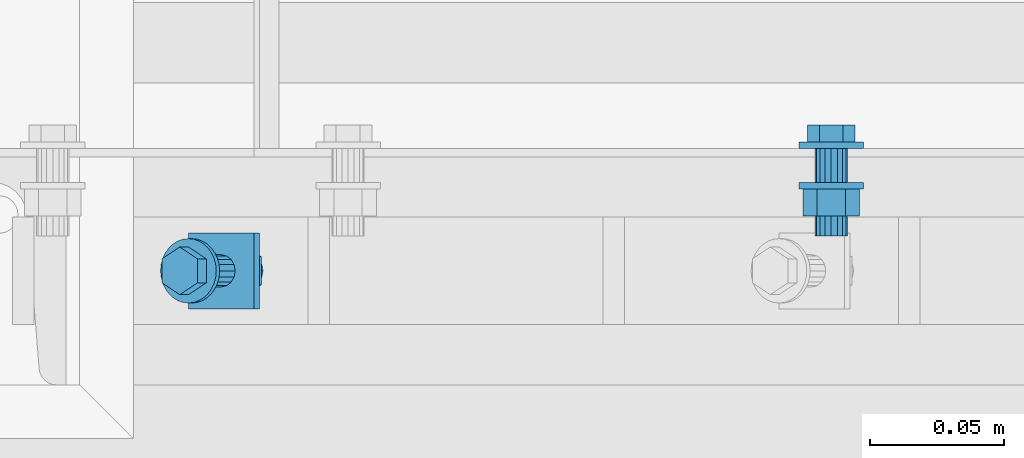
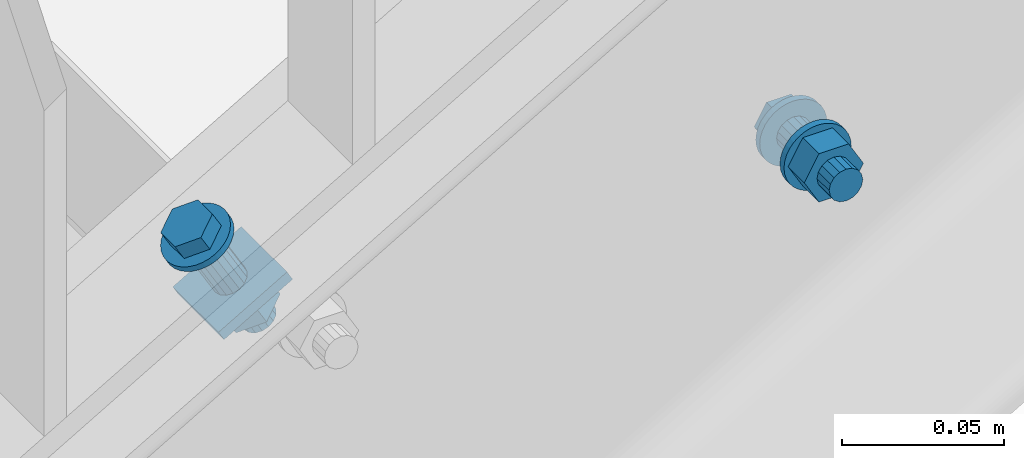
# One storey, part 48 of 145: 2 mechanical fasteners.
"""IFC2X3 building model written with IfcOpenShell, lengths in millimetres."""

from ifc_helpers import new_model, entity, si_unit, converted_unit, origin_with_axes, place, context, project, spatial, faceted_brep, element, save


model = new_model("IFC2X3")

# Units and contexts
model_context = context("Model", 3, precision=1e-09, world=origin_with_axes())
ifc_project = project(units=[si_unit("LENGTHUNIT", "METRE", prefix="MILLI"), si_unit("AREAUNIT", "SQUARE_METRE"), si_unit("VOLUMEUNIT", "CUBIC_METRE"), converted_unit("PLANEANGLEUNIT", "DEGREE", entity("IfcPlaneAngleMeasure", 0.01745329), si_unit("PLANEANGLEUNIT", "RADIAN"), dimensions=[0, 0, 0, 0, 0, 0, 0])], contexts=[model_context])

# Site, building, storey
site_placement = place(None, origin_with_axes())
site = spatial("IfcSite", under=ifc_project, at=site_placement, Name="BZ1 Grund- und Mittelschule 85716 Unterschlei?heim", CompositionType="ELEMENT")
building_placement = place(site_placement, origin_with_axes())
building = spatial("IfcBuilding", under=site, at=building_placement, Name="Struktur 1", CompositionType="ELEMENT")
storey_placement = place(building_placement, origin_with_axes())
storey = spatial("IfcBuildingStorey", under=building, at=storey_placement, Name="Default Storey", CompositionType="ELEMENT", Elevation=0.0)

# Mechanical fasteners
mechanical_fastener_1_placement = place(None, origin_with_axes())
element("IfcMechanicalFastener", 1, at=mechanical_fastener_1_placement, inside=storey, ObjectType="-", NominalDiameter=12.0, NominalLength=35.0, context=model_context, shape_type="Brep", body=[
    faceted_brep([(17169.545399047, -3114.502, -189.727271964), (17169.545399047, -3117.002, -189.727271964), (17167.204315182, -3117.002, -189.496695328), (17167.204315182, -3114.502, -189.496695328), (17164.953197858, -3117.002, -188.813826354), (17164.953197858, -3114.502, -188.813826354), (17162.87855625, -3117.002, -187.704907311), (17162.87855625, -3114.502, -187.704907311), (17161.060117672, -3117.002, -186.212553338), (17161.060117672, -3114.502, -186.212553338), (17159.567763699, -3117.002, -184.39411476), (17159.567763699, -3114.502, -184.39411476), (17158.458844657, -3117.002, -182.319473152), (17158.458844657, -3114.502, -182.319473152), (17157.775975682, -3117.002, -180.068355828), (17157.775975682, -3114.502, -180.068355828), (17157.545399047, -3117.002, -177.727271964), (17157.545399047, -3114.502, -177.727271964), (17157.775975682, -3117.002, -175.386188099), (17157.775975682, -3114.502, -175.386188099), (17158.458844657, -3117.002, -173.135070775), (17158.458844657, -3114.502, -173.135070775), (17159.567763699, -3117.002, -171.060429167), (17159.567763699, -3114.502, -171.060429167), (17161.060117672, -3117.002, -169.241990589), (17161.060117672, -3114.502, -169.241990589), (17162.87855625, -3117.002, -167.749636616), (17162.87855625, -3114.502, -167.749636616), (17164.953197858, -3117.002, -166.640717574), (17164.953197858, -3114.502, -166.640717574), (17167.204315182, -3117.002, -165.957848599), (17167.204315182, -3114.502, -165.957848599), (17169.545399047, -3117.002, -165.727271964), (17169.545399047, -3114.502, -165.727271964), (17171.886482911, -3117.002, -165.957848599), (17171.886482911, -3114.502, -165.957848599), (17174.137600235, -3117.002, -166.640717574), (17174.137600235, -3114.502, -166.640717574), (17176.212241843, -3117.002, -167.749636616), (17176.212241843, -3114.502, -167.749636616), (17178.030680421, -3117.002, -169.241990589), (17178.030680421, -3114.502, -169.241990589), (17179.523034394, -3117.002, -171.060429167), (17179.523034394, -3114.502, -171.060429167), (17180.631953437, -3117.002, -173.135070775), (17180.631953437, -3114.502, -173.135070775), (17181.314822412, -3117.002, -175.386188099), (17181.314822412, -3114.502, -175.386188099), (17181.545399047, -3117.002, -177.727271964), (17181.545399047, -3114.502, -177.727271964), (17181.314822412, -3117.002, -180.068355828), (17181.314822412, -3114.502, -180.068355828), (17180.631953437, -3117.002, -182.319473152), (17180.631953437, -3114.502, -182.319473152), (17179.523034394, -3117.002, -184.39411476), (17179.523034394, -3114.502, -184.39411476), (17178.030680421, -3117.002, -186.212553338), (17178.030680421, -3114.502, -186.212553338), (17176.212241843, -3117.002, -187.704907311), (17176.212241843, -3114.502, -187.704907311), (17174.137600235, -3117.002, -188.813826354), (17174.137600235, -3114.502, -188.813826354), (17171.886482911, -3117.002, -189.496695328), (17171.886482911, -3114.502, -189.496695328)], [[[0, 1, 2, 3]], [[3, 2, 4, 5]], [[5, 4, 6, 7]], [[7, 6, 8, 9]], [[9, 8, 10, 11]], [[11, 10, 12, 13]], [[13, 12, 14, 15]], [[15, 14, 16, 17]], [[17, 16, 18, 19]], [[19, 18, 20, 21]], [[21, 20, 22, 23]], [[23, 22, 24, 25]], [[25, 24, 26, 27]], [[27, 26, 28, 29]], [[29, 28, 30, 31]], [[31, 30, 32, 33]], [[33, 32, 34, 35]], [[35, 34, 36, 37]], [[37, 36, 38, 39]], [[39, 38, 40, 41]], [[41, 40, 42, 43]], [[43, 42, 44, 45]], [[45, 44, 46, 47]], [[47, 46, 48, 49]], [[49, 48, 50, 51]], [[51, 50, 52, 53]], [[53, 52, 54, 55]], [[55, 54, 56, 57]], [[57, 56, 58, 59]], [[59, 58, 60, 61]], [[61, 60, 62, 63]], [[63, 62, 1, 0]], [[0, 3, 5, 7, 9, 11, 13, 15, 17, 19, 21, 23, 25, 27, 29, 31, 33, 35, 37, 39, 41, 43, 45, 47, 49, 51, 53, 55, 57, 59, 61, 63]], [[1, 62, 60, 58, 56, 54, 52, 50, 48, 46, 44, 42, 40, 38, 36, 34, 32, 30, 28, 26, 24, 22, 20, 18, 16, 14, 12, 10, 8, 6, 4, 2]]]),
    faceted_brep([(17165.102899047, -3114.502, -170.032636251), (17165.102899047, -3108.102, -170.032636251), (17160.660399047, -3108.102, -177.727271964), (17160.660399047, -3114.502, -177.727271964), (17165.102899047, -3108.102, -185.421907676), (17165.102899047, -3114.502, -185.421907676), (17173.987899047, -3108.102, -185.421907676), (17173.987899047, -3114.502, -185.421907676), (17178.430399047, -3108.102, -177.727271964), (17178.430399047, -3114.502, -177.727271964), (17173.987899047, -3108.102, -170.032636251), (17173.987899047, -3114.502, -170.032636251)], [[[0, 1, 2, 3]], [[3, 2, 4, 5]], [[5, 4, 6, 7]], [[7, 6, 8, 9]], [[9, 8, 10, 11]], [[11, 10, 1, 0]], [[4, 2, 1, 10, 8, 6]], [[0, 3, 5, 7, 9, 11]]]),
    faceted_brep([(17169.545399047, -3117.002, -183.727271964), (17169.545399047, -3129.502, -183.727271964), (17167.249298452, -3129.502, -183.270549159), (17167.249298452, -3117.002, -183.270549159), (17165.30275836, -3129.502, -181.969912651), (17165.30275836, -3117.002, -181.969912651), (17164.002121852, -3129.502, -180.023372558), (17164.002121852, -3117.002, -180.023372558), (17163.545399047, -3129.502, -177.727271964), (17163.545399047, -3117.002, -177.727271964), (17164.002121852, -3129.502, -175.431171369), (17164.002121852, -3117.002, -175.431171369), (17165.30275836, -3129.502, -173.484631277), (17165.30275836, -3117.002, -173.484631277), (17167.249298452, -3129.502, -172.183994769), (17167.249298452, -3117.002, -172.183994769), (17169.545399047, -3129.502, -171.727271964), (17169.545399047, -3117.002, -171.727271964), (17171.841499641, -3129.502, -172.183994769), (17171.841499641, -3117.002, -172.183994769), (17173.788039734, -3129.502, -173.484631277), (17173.788039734, -3117.002, -173.484631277), (17175.088676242, -3129.502, -175.431171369), (17175.088676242, -3117.002, -175.431171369), (17175.545399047, -3129.502, -177.727271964), (17175.545399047, -3117.002, -177.727271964), (17175.088676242, -3129.502, -180.023372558), (17175.088676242, -3117.002, -180.023372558), (17173.788039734, -3129.502, -181.969912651), (17173.788039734, -3117.002, -181.969912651), (17171.841499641, -3129.502, -183.270549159), (17171.841499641, -3117.002, -183.270549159)], [[[0, 1, 2, 3]], [[3, 2, 4, 5]], [[5, 4, 6, 7]], [[7, 6, 8, 9]], [[9, 8, 10, 11]], [[11, 10, 12, 13]], [[13, 12, 14, 15]], [[15, 14, 16, 17]], [[17, 16, 18, 19]], [[19, 18, 20, 21]], [[21, 20, 22, 23]], [[23, 22, 24, 25]], [[25, 24, 26, 27]], [[27, 26, 28, 29]], [[29, 28, 30, 31]], [[31, 30, 1, 0]], [[0, 3, 5, 7, 9, 11, 13, 15, 17, 19, 21, 23, 25, 27, 29, 31]], [[1, 30, 28, 26, 24, 22, 20, 18, 16, 14, 12, 10, 8, 6, 4, 2]]]),
    faceted_brep([(17169.545399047, -3129.502, -189.727271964), (17169.545399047, -3132.002, -189.727271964), (17167.204315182, -3132.002, -189.496695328), (17167.204315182, -3129.502, -189.496695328), (17164.953197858, -3132.002, -188.813826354), (17164.953197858, -3129.502, -188.813826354), (17162.87855625, -3132.002, -187.704907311), (17162.87855625, -3129.502, -187.704907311), (17161.060117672, -3132.002, -186.212553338), (17161.060117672, -3129.502, -186.212553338), (17159.567763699, -3132.002, -184.39411476), (17159.567763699, -3129.502, -184.39411476), (17158.458844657, -3132.002, -182.319473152), (17158.458844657, -3129.502, -182.319473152), (17157.775975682, -3132.002, -180.068355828), (17157.775975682, -3129.502, -180.068355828), (17157.545399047, -3132.002, -177.727271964), (17157.545399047, -3129.502, -177.727271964), (17157.775975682, -3132.002, -175.386188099), (17157.775975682, -3129.502, -175.386188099), (17158.458844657, -3132.002, -173.135070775), (17158.458844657, -3129.502, -173.135070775), (17159.567763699, -3132.002, -171.060429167), (17159.567763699, -3129.502, -171.060429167), (17161.060117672, -3132.002, -169.241990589), (17161.060117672, -3129.502, -169.241990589), (17162.87855625, -3132.002, -167.749636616), (17162.87855625, -3129.502, -167.749636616), (17164.953197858, -3132.002, -166.640717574), (17164.953197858, -3129.502, -166.640717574), (17167.204315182, -3132.002, -165.957848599), (17167.204315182, -3129.502, -165.957848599), (17169.545399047, -3132.002, -165.727271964), (17169.545399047, -3129.502, -165.727271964), (17171.886482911, -3132.002, -165.957848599), (17171.886482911, -3129.502, -165.957848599), (17174.137600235, -3132.002, -166.640717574), (17174.137600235, -3129.502, -166.640717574), (17176.212241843, -3132.002, -167.749636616), (17176.212241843, -3129.502, -167.749636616), (17178.030680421, -3132.002, -169.241990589), (17178.030680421, -3129.502, -169.241990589), (17179.523034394, -3132.002, -171.060429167), (17179.523034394, -3129.502, -171.060429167), (17180.631953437, -3132.002, -173.135070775), (17180.631953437, -3129.502, -173.135070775), (17181.314822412, -3132.002, -175.386188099), (17181.314822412, -3129.502, -175.386188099), (17181.545399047, -3132.002, -177.727271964), (17181.545399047, -3129.502, -177.727271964), (17181.314822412, -3132.002, -180.068355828), (17181.314822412, -3129.502, -180.068355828), (17180.631953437, -3132.002, -182.319473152), (17180.631953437, -3129.502, -182.319473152), (17179.523034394, -3132.002, -184.39411476), (17179.523034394, -3129.502, -184.39411476), (17178.030680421, -3132.002, -186.212553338), (17178.030680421, -3129.502, -186.212553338), (17176.212241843, -3132.002, -187.704907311), (17176.212241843, -3129.502, -187.704907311), (17174.137600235, -3132.002, -188.813826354), (17174.137600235, -3129.502, -188.813826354), (17171.886482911, -3132.002, -189.496695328), (17171.886482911, -3129.502, -189.496695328)], [[[0, 1, 2, 3]], [[3, 2, 4, 5]], [[5, 4, 6, 7]], [[7, 6, 8, 9]], [[9, 8, 10, 11]], [[11, 10, 12, 13]], [[13, 12, 14, 15]], [[15, 14, 16, 17]], [[17, 16, 18, 19]], [[19, 18, 20, 21]], [[21, 20, 22, 23]], [[23, 22, 24, 25]], [[25, 24, 26, 27]], [[27, 26, 28, 29]], [[29, 28, 30, 31]], [[31, 30, 32, 33]], [[33, 32, 34, 35]], [[35, 34, 36, 37]], [[37, 36, 38, 39]], [[39, 38, 40, 41]], [[41, 40, 42, 43]], [[43, 42, 44, 45]], [[45, 44, 46, 47]], [[47, 46, 48, 49]], [[49, 48, 50, 51]], [[51, 50, 52, 53]], [[53, 52, 54, 55]], [[55, 54, 56, 57]], [[57, 56, 58, 59]], [[59, 58, 60, 61]], [[61, 60, 62, 63]], [[63, 62, 1, 0]], [[0, 3, 5, 7, 9, 11, 13, 15, 17, 19, 21, 23, 25, 27, 29, 31, 33, 35, 37, 39, 41, 43, 45, 47, 49, 51, 53, 55, 57, 59, 61, 63]], [[1, 62, 60, 58, 56, 54, 52, 50, 48, 46, 44, 42, 40, 38, 36, 34, 32, 30, 28, 26, 24, 22, 20, 18, 16, 14, 12, 10, 8, 6, 4, 2]]]),
    faceted_brep([(17164.270399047, -3142.002, -168.590703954), (17164.270399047, -3132.002, -168.590703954), (17158.995399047, -3132.002, -177.727271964), (17158.995399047, -3142.002, -177.727271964), (17164.270399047, -3132.002, -186.863839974), (17164.270399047, -3142.002, -186.863839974), (17174.820399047, -3132.002, -186.863839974), (17174.820399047, -3142.002, -186.863839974), (17180.095399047, -3132.002, -177.727271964), (17180.095399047, -3142.002, -177.727271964), (17174.820399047, -3132.002, -168.590703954), (17174.820399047, -3142.002, -168.590703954)], [[[0, 1, 2, 3]], [[3, 2, 4, 5]], [[5, 4, 6, 7]], [[7, 6, 8, 9]], [[9, 8, 10, 11]], [[11, 10, 1, 0]], [[4, 2, 1, 10, 8, 6]], [[0, 3, 5, 7, 9, 11]]]),
    faceted_brep([(17169.545399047, -3142.002, -183.727271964), (17169.545399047, -3149.502, -183.727271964), (17167.249298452, -3149.502, -183.270549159), (17167.249298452, -3142.002, -183.270549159), (17165.30275836, -3149.502, -181.969912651), (17165.30275836, -3142.002, -181.969912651), (17164.002121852, -3149.502, -180.023372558), (17164.002121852, -3142.002, -180.023372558), (17163.545399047, -3149.502, -177.727271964), (17163.545399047, -3142.002, -177.727271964), (17164.002121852, -3149.502, -175.431171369), (17164.002121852, -3142.002, -175.431171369), (17165.30275836, -3149.502, -173.484631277), (17165.30275836, -3142.002, -173.484631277), (17167.249298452, -3149.502, -172.183994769), (17167.249298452, -3142.002, -172.183994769), (17169.545399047, -3149.502, -171.727271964), (17169.545399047, -3142.002, -171.727271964), (17171.841499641, -3149.502, -172.183994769), (17171.841499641, -3142.002, -172.183994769), (17173.788039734, -3149.502, -173.484631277), (17173.788039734, -3142.002, -173.484631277), (17175.088676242, -3149.502, -175.431171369), (17175.088676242, -3142.002, -175.431171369), (17175.545399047, -3149.502, -177.727271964), (17175.545399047, -3142.002, -177.727271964), (17175.088676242, -3149.502, -180.023372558), (17175.088676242, -3142.002, -180.023372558), (17173.788039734, -3149.502, -181.969912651), (17173.788039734, -3142.002, -181.969912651), (17171.841499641, -3149.502, -183.270549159), (17171.841499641, -3142.002, -183.270549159)], [[[0, 1, 2, 3]], [[3, 2, 4, 5]], [[5, 4, 6, 7]], [[7, 6, 8, 9]], [[9, 8, 10, 11]], [[11, 10, 12, 13]], [[13, 12, 14, 15]], [[15, 14, 16, 17]], [[17, 16, 18, 19]], [[19, 18, 20, 21]], [[21, 20, 22, 23]], [[23, 22, 24, 25]], [[25, 24, 26, 27]], [[27, 26, 28, 29]], [[29, 28, 30, 31]], [[31, 30, 1, 0]], [[0, 3, 5, 7, 9, 11, 13, 15, 17, 19, 21, 23, 25, 27, 29, 31]], [[1, 30, 28, 26, 24, 22, 20, 18, 16, 14, 12, 10, 8, 6, 4, 2]]]),
])
mechanical_fastener_2_placement = place(None, origin_with_axes())
element("IfcMechanicalFastener", 2, at=mechanical_fastener_2_placement, inside=storey, ObjectType="-", NominalDiameter=12.0, NominalLength=45.0, context=model_context, shape_type="Brep", body=[
    faceted_brep([(16919.692769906, -3162.502, -110.848014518), (16920.949497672, -3162.502, -113.009179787), (16921.148823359, -3164.843083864, -112.893270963), (16919.892095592, -3164.843083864, -110.732105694), (16921.739140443, -3167.094201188, -112.549998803), (16920.482412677, -3167.094201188, -110.388833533), (16922.697763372, -3169.168842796, -111.992555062), (16921.441035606, -3169.168842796, -109.831389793), (16923.987852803, -3170.987281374, -111.242361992), (16922.731125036, -3170.987281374, -109.081196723), (16925.559831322, -3172.479635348, -110.328249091), (16924.303103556, -3172.479635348, -108.167083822), (16927.353288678, -3173.58855439, -109.285345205), (16926.096560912, -3173.58855439, -107.124179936), (16929.299303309, -3174.271423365, -108.153728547), (16928.042575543, -3174.271423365, -105.992563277), (16931.323090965, -3174.502, -106.976886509), (16930.066363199, -3174.502, -104.815721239), (16933.346878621, -3174.271423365, -105.80004447), (16932.090150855, -3174.271423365, -103.638879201), (16935.292893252, -3173.58855439, -104.668427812), (16934.036165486, -3173.58855439, -102.507262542), (16937.086350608, -3172.479635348, -103.625523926), (16935.829622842, -3172.479635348, -101.464358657), (16938.658329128, -3170.987281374, -102.711411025), (16937.401601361, -3170.987281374, -100.550245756), (16939.948418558, -3169.168842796, -101.961217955), (16938.691690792, -3169.168842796, -99.800052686), (16940.907041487, -3167.094201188, -101.403774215), (16939.650313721, -3167.094201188, -99.242608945), (16941.497358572, -3164.843083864, -101.060502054), (16940.240630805, -3164.843083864, -98.899336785), (16941.696684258, -3162.502, -100.94459323), (16940.439956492, -3162.502, -98.783427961), (16941.497358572, -3160.160916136, -101.060502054), (16940.240630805, -3160.160916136, -98.899336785), (16940.907041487, -3157.909798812, -101.403774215), (16939.650313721, -3157.909798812, -99.242608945), (16939.948418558, -3155.835157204, -101.961217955), (16938.691690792, -3155.835157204, -99.800052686), (16938.658329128, -3154.016718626, -102.711411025), (16937.401601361, -3154.016718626, -100.550245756), (16937.086350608, -3152.524364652, -103.625523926), (16935.829622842, -3152.524364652, -101.464358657), (16935.292893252, -3151.41544561, -104.668427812), (16934.036165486, -3151.41544561, -102.507262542), (16933.346878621, -3150.732576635, -105.80004447), (16932.090150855, -3150.732576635, -103.638879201), (16931.323090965, -3150.502, -106.976886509), (16930.066363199, -3150.502, -104.815721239), (16929.299303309, -3150.732576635, -108.153728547), (16928.042575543, -3150.732576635, -105.992563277), (16927.353288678, -3151.41544561, -109.285345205), (16926.096560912, -3151.41544561, -107.124179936), (16925.559831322, -3152.524364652, -110.328249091), (16924.303103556, -3152.524364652, -108.167083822), (16923.987852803, -3154.016718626, -111.242361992), (16922.731125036, -3154.016718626, -109.081196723), (16922.697763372, -3155.835157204, -111.992555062), (16921.441035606, -3155.835157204, -109.831389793), (16921.739140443, -3157.909798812, -112.549998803), (16920.482412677, -3157.909798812, -110.388833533), (16921.148823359, -3160.160916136, -112.893270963), (16919.892095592, -3160.160916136, -110.732105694)], [[[0, 1, 2, 3]], [[3, 2, 4, 5]], [[5, 4, 6, 7]], [[7, 6, 8, 9]], [[9, 8, 10, 11]], [[11, 10, 12, 13]], [[13, 12, 14, 15]], [[15, 14, 16, 17]], [[17, 16, 18, 19]], [[19, 18, 20, 21]], [[21, 20, 22, 23]], [[23, 22, 24, 25]], [[25, 24, 26, 27]], [[27, 26, 28, 29]], [[29, 28, 30, 31]], [[31, 30, 32, 33]], [[33, 32, 34, 35]], [[35, 34, 36, 37]], [[37, 36, 38, 39]], [[39, 38, 40, 41]], [[41, 40, 42, 43]], [[43, 42, 44, 45]], [[45, 44, 46, 47]], [[47, 46, 48, 49]], [[49, 48, 50, 51]], [[51, 50, 52, 53]], [[53, 52, 54, 55]], [[55, 54, 56, 57]], [[57, 56, 58, 59]], [[59, 58, 60, 61]], [[61, 60, 62, 63]], [[63, 62, 1, 0]], [[0, 3, 5, 7, 9, 11, 13, 15, 17, 19, 21, 23, 25, 27, 29, 31, 33, 35, 37, 39, 41, 43, 45, 47, 49, 51, 53, 55, 57, 59, 61, 63]], [[1, 62, 60, 58, 56, 54, 52, 50, 48, 46, 44, 42, 40, 38, 36, 34, 32, 30, 28, 26, 24, 22, 20, 18, 16, 14, 12, 10, 8, 6, 4, 2]]]),
    faceted_brep([(16936.718114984, -3166.9445, -100.947696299), (16933.500891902, -3166.9445, -95.415113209), (16926.849140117, -3171.387, -99.28313815), (16930.066363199, -3171.387, -104.815721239), (16920.197388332, -3166.9445, -103.151163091), (16923.414611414, -3166.9445, -108.68374618), (16920.197388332, -3158.0595, -103.151163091), (16923.414611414, -3158.0595, -108.68374618), (16926.849140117, -3153.617, -99.28313815), (16930.066363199, -3153.617, -104.815721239), (16933.500891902, -3158.0595, -95.415113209), (16936.718114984, -3158.0595, -100.947696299)], [[[0, 1, 2, 3]], [[3, 2, 4, 5]], [[5, 4, 6, 7]], [[7, 6, 8, 9]], [[9, 8, 10, 11]], [[11, 10, 1, 0]], [[4, 2, 1, 10, 8, 6]], [[0, 3, 5, 7, 9, 11]]]),
    faceted_brep([(16926.136294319, -3162.502, -109.993033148), (16937.117086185, -3162.502, -128.876443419), (16937.511907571, -3164.798100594, -128.646852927), (16926.531115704, -3164.798100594, -109.763442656), (16938.63626375, -3166.744640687, -127.993034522), (16927.655471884, -3166.744640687, -109.10962425), (16940.318981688, -3168.045277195, -127.014526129), (16929.338189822, -3168.045277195, -108.131115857), (16942.303882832, -3168.502, -125.86029678), (16931.323090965, -3168.502, -106.976886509), (16944.288783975, -3168.045277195, -124.706067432), (16933.307992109, -3168.045277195, -105.82265716), (16945.971501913, -3166.744640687, -123.727559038), (16934.990710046, -3166.744640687, -104.844148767), (16947.095858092, -3164.798100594, -123.073740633), (16936.115066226, -3164.798100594, -104.190330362), (16947.490679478, -3162.502, -122.844150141), (16936.509887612, -3162.502, -103.960739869), (16947.095858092, -3160.205899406, -123.073740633), (16936.115066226, -3160.205899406, -104.190330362), (16945.971501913, -3158.259359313, -123.727559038), (16934.990710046, -3158.259359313, -104.844148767), (16944.288783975, -3156.958722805, -124.706067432), (16933.307992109, -3156.958722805, -105.82265716), (16942.303882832, -3156.502, -125.86029678), (16931.323090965, -3156.502, -106.976886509), (16940.318981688, -3156.958722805, -127.014526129), (16929.338189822, -3156.958722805, -108.131115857), (16938.63626375, -3158.259359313, -127.993034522), (16927.655471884, -3158.259359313, -109.10962425), (16937.511907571, -3160.205899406, -128.646852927), (16926.531115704, -3160.205899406, -109.763442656)], [[[0, 1, 2, 3]], [[3, 2, 4, 5]], [[5, 4, 6, 7]], [[7, 6, 8, 9]], [[9, 8, 10, 11]], [[11, 10, 12, 13]], [[13, 12, 14, 15]], [[15, 14, 16, 17]], [[17, 16, 18, 19]], [[19, 18, 20, 21]], [[21, 20, 22, 23]], [[23, 22, 24, 25]], [[25, 24, 26, 27]], [[27, 26, 28, 29]], [[29, 28, 30, 31]], [[31, 30, 1, 0]], [[0, 3, 5, 7, 9, 11, 13, 15, 17, 19, 21, 23, 25, 27, 29, 31]], [[1, 30, 28, 26, 24, 22, 20, 18, 16, 14, 12, 10, 8, 6, 4, 2]]]),
    faceted_brep([(16956.540044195, -3176.644135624, -122.209035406), (16954.529279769, -3176.644135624, -118.751170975), (16930.078485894, -3176.644135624, -132.969422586), (16932.08925032, -3176.644135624, -136.427287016), (16930.078485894, -3148.359864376, -132.969422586), (16932.08925032, -3148.359864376, -136.427287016), (16954.529279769, -3148.359864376, -118.751170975), (16956.540044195, -3148.359864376, -122.209035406)], [[[0, 1, 2, 3]], [[3, 2, 4, 5]], [[5, 4, 6, 7]], [[7, 6, 1, 0]], [[4, 2, 1, 6]], [[0, 3, 5, 7]]]),
    faceted_brep([(16957.239811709, -3167.777, -133.369950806), (16952.212900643, -3167.777, -124.725289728), (16944.314647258, -3173.052, -129.318161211), (16949.341558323, -3173.052, -137.962822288), (16936.416393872, -3167.777, -133.911032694), (16941.443304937, -3167.777, -142.555693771), (16936.416393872, -3157.227, -133.911032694), (16941.443304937, -3157.227, -142.555693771), (16944.314647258, -3151.952, -129.318161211), (16949.341558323, -3151.952, -137.962822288), (16952.212900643, -3157.227, -124.725289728), (16957.239811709, -3157.227, -133.369950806)], [[[0, 1, 2, 3]], [[3, 2, 4, 5]], [[5, 4, 6, 7]], [[7, 6, 8, 9]], [[9, 8, 10, 11]], [[11, 10, 1, 0]], [[4, 2, 1, 10, 8, 6]], [[0, 3, 5, 7, 9, 11]]]),
    faceted_brep([(16944.154761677, -3162.502, -140.978968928), (16947.500666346, -3162.502, -146.732842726), (16947.895487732, -3164.798100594, -146.503252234), (16944.549583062, -3164.798100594, -140.749378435), (16949.019843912, -3166.744640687, -145.849433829), (16945.673939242, -3166.744640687, -140.09556003), (16950.702561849, -3168.045277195, -144.870925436), (16947.356657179, -3168.045277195, -139.117051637), (16952.687462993, -3168.502, -143.716696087), (16949.341558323, -3168.502, -137.962822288), (16954.672364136, -3168.045277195, -142.562466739), (16951.326459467, -3168.045277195, -136.80859294), (16956.355082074, -3166.744640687, -141.583958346), (16953.009177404, -3166.744640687, -135.830084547), (16957.479438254, -3164.798100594, -140.93013994), (16954.133533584, -3164.798100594, -135.176266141), (16957.874259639, -3162.502, -140.700549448), (16954.528354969, -3162.502, -134.946675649), (16957.479438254, -3160.205899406, -140.93013994), (16954.133533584, -3160.205899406, -135.176266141), (16956.355082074, -3158.259359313, -141.583958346), (16953.009177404, -3158.259359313, -135.830084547), (16954.672364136, -3156.958722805, -142.562466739), (16951.326459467, -3156.958722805, -136.80859294), (16952.687462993, -3156.502, -143.716696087), (16949.341558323, -3156.502, -137.962822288), (16950.702561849, -3156.958722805, -144.870925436), (16947.356657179, -3156.958722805, -139.117051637), (16949.019843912, -3158.259359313, -145.849433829), (16945.673939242, -3158.259359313, -140.09556003), (16947.895487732, -3160.205899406, -146.503252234), (16944.549583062, -3160.205899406, -140.749378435)], [[[0, 1, 2, 3]], [[3, 2, 4, 5]], [[5, 4, 6, 7]], [[7, 6, 8, 9]], [[9, 8, 10, 11]], [[11, 10, 12, 13]], [[13, 12, 14, 15]], [[15, 14, 16, 17]], [[17, 16, 18, 19]], [[19, 18, 20, 21]], [[21, 20, 22, 23]], [[23, 22, 24, 25]], [[25, 24, 26, 27]], [[27, 26, 28, 29]], [[29, 28, 30, 31]], [[31, 30, 1, 0]], [[0, 3, 5, 7, 9, 11, 13, 15, 17, 19, 21, 23, 25, 27, 29, 31]], [[1, 30, 28, 26, 24, 22, 20, 18, 16, 14, 12, 10, 8, 6, 4, 2]]]),
])

save(model, "model.ifc")
